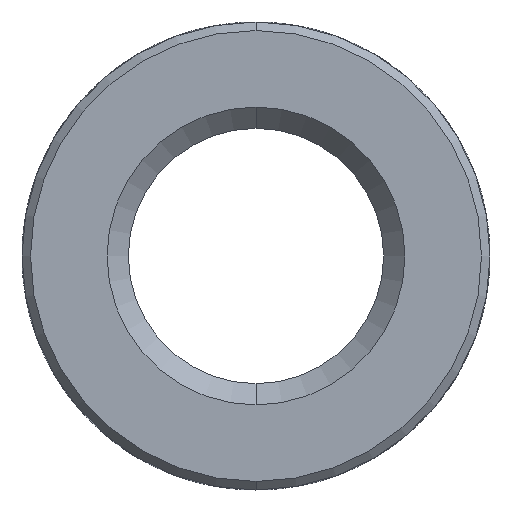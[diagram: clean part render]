
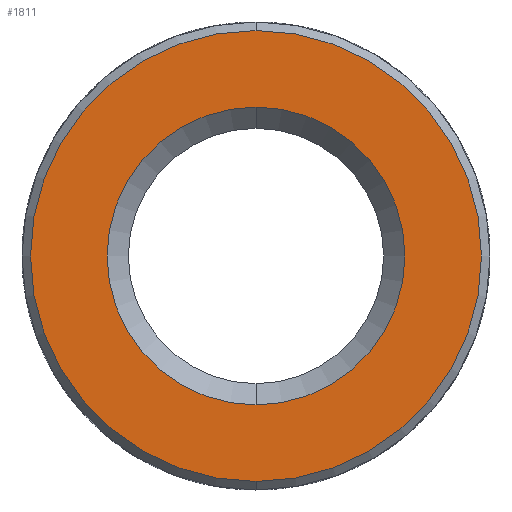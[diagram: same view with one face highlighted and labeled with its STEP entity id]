
A CAD part, front view. The second image highlights one B-rep face of the part: STEP entity #1811.
In plain terms, the highlighted planar face has unit normal (0, -1, 0).
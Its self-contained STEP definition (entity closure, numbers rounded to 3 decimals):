
#26 = AXIS2_PLACEMENT_3D ( 'NONE', #2982, #485, #2692 ) ;
#126 = DIRECTION ( 'NONE',  ( 0., 0., -1. ) ) ;
#208 = CARTESIAN_POINT ( 'NONE',  ( 0., -6.3, -1.75 ) ) ;
#325 = AXIS2_PLACEMENT_3D ( 'NONE', #3208, #2919, #1736 ) ;
#402 = ORIENTED_EDGE ( 'NONE', *, *, #2912, .T. ) ;
#412 = EDGE_CURVE ( 'NONE', #581, #1513, #2498, .T. ) ;
#485 = DIRECTION ( 'NONE',  ( 0., -1., 0. ) ) ;
#581 = VERTEX_POINT ( 'NONE', #208 ) ;
#589 = CARTESIAN_POINT ( 'NONE',  ( 0., -6.3, 0. ) ) ;
#641 = ORIENTED_EDGE ( 'NONE', *, *, #3490, .T. ) ;
#675 = CARTESIAN_POINT ( 'NONE',  ( 0., -6.3, -2.65 ) ) ;
#883 = EDGE_LOOP ( 'NONE', ( #2138, #402 ) ) ;
#890 = CARTESIAN_POINT ( 'NONE',  ( 0., -6.3, 2.75 ) ) ;
#1134 = AXIS2_PLACEMENT_3D ( 'NONE', #890, #2161, #1846 ) ;
#1204 = PLANE ( 'NONE',  #1134 ) ;
#1205 = DIRECTION ( 'NONE',  ( 0., 0., -1. ) ) ;
#1303 = CIRCLE ( 'NONE', #26, 2.65 ) ;
#1385 = FACE_BOUND ( 'NONE', #883, .T. ) ;
#1513 = VERTEX_POINT ( 'NONE', #3131 ) ;
#1653 = ORIENTED_EDGE ( 'NONE', *, *, #3213, .T. ) ;
#1736 = DIRECTION ( 'NONE',  ( 0., 0., -1. ) ) ;
#1811 = ADVANCED_FACE ( 'NONE', ( #3335, #1385 ), #1204, .T. ) ;
#1846 = DIRECTION ( 'NONE',  ( 0., 0., -1. ) ) ;
#1965 = CARTESIAN_POINT ( 'NONE',  ( 0., -6.3, 0. ) ) ;
#2051 = CIRCLE ( 'NONE', #3094, 1.75 ) ;
#2138 = ORIENTED_EDGE ( 'NONE', *, *, #412, .T. ) ;
#2161 = DIRECTION ( 'NONE',  ( 0., -1., 0. ) ) ;
#2364 = EDGE_LOOP ( 'NONE', ( #1653, #641 ) ) ;
#2377 = VERTEX_POINT ( 'NONE', #675 ) ;
#2423 = DIRECTION ( 'NONE',  ( 0., 1., 0. ) ) ;
#2498 = CIRCLE ( 'NONE', #3160, 1.75 ) ;
#2692 = DIRECTION ( 'NONE',  ( 0., 0., -1. ) ) ;
#2912 = EDGE_CURVE ( 'NONE', #1513, #581, #2051, .T. ) ;
#2919 = DIRECTION ( 'NONE',  ( 0., -1., 0. ) ) ;
#2982 = CARTESIAN_POINT ( 'NONE',  ( 0., -6.3, 0. ) ) ;
#3094 = AXIS2_PLACEMENT_3D ( 'NONE', #589, #2423, #1205 ) ;
#3131 = CARTESIAN_POINT ( 'NONE',  ( 0., -6.3, 1.75 ) ) ;
#3160 = AXIS2_PLACEMENT_3D ( 'NONE', #1965, #3841, #126 ) ;
#3208 = CARTESIAN_POINT ( 'NONE',  ( 0., -6.3, 0. ) ) ;
#3213 = EDGE_CURVE ( 'NONE', #3719, #2377, #3250, .T. ) ;
#3250 = CIRCLE ( 'NONE', #325, 2.65 ) ;
#3335 = FACE_OUTER_BOUND ( 'NONE', #2364, .T. ) ;
#3490 = EDGE_CURVE ( 'NONE', #2377, #3719, #1303, .T. ) ;
#3719 = VERTEX_POINT ( 'NONE', #3928 ) ;
#3841 = DIRECTION ( 'NONE',  ( 0., 1., 0. ) ) ;
#3928 = CARTESIAN_POINT ( 'NONE',  ( 0., -6.3, 2.65 ) ) ;
